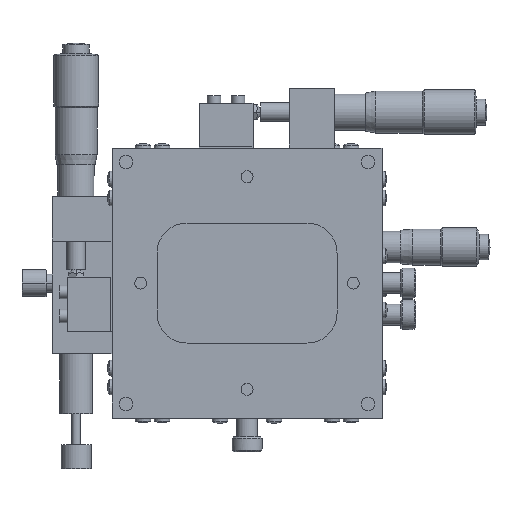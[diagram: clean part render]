
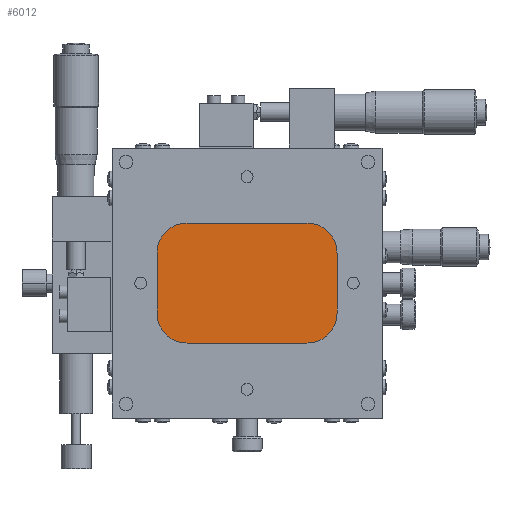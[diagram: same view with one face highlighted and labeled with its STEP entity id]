
A CAD part, front view. The second image highlights one B-rep face of the part: STEP entity #6012.
In plain terms, the highlighted planar face has unit normal (0, -1, 0) as drawn and (0, 0, -1) by its records, which use the part's own axes.
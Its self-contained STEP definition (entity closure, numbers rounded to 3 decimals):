
#878 = VERTEX_POINT ( 'NONE', #10679 ) ;
#884 = VERTEX_POINT ( 'NONE', #10685 ) ;
#887 = VERTEX_POINT ( 'NONE', #10688 ) ;
#888 = VERTEX_POINT ( 'NONE', #10689 ) ;
#889 = VERTEX_POINT ( 'NONE', #10690 ) ;
#890 = VERTEX_POINT ( 'NONE', #10691 ) ;
#891 = VERTEX_POINT ( 'NONE', #10692 ) ;
#892 = VERTEX_POINT ( 'NONE', #10693 ) ;
#4205 = ORIENTED_EDGE ( 'NONE', *, *, #6192, .T. ) ;
#4206 = ORIENTED_EDGE ( 'NONE', *, *, #6193, .T. ) ;
#4207 = ORIENTED_EDGE ( 'NONE', *, *, #6194, .T. ) ;
#4208 = ORIENTED_EDGE ( 'NONE', *, *, #6195, .T. ) ;
#4209 = ORIENTED_EDGE ( 'NONE', *, *, #6196, .T. ) ;
#4210 = ORIENTED_EDGE ( 'NONE', *, *, #6197, .T. ) ;
#4211 = ORIENTED_EDGE ( 'NONE', *, *, #6198, .T. ) ;
#4212 = ORIENTED_EDGE ( 'NONE', *, *, #6199, .T. ) ;
#6012 = ADVANCED_FACE ( 'NONE', ( #24374 ), #24375, .T. ) ;
#6192 = EDGE_CURVE ( 'NONE', #878, #884, #24756, .T. ) ;
#6193 = EDGE_CURVE ( 'NONE', #884, #887, #26494, .T. ) ;
#6194 = EDGE_CURVE ( 'NONE', #887, #888, #24760, .T. ) ;
#6195 = EDGE_CURVE ( 'NONE', #888, #889, #26485, .T. ) ;
#6196 = EDGE_CURVE ( 'NONE', #889, #890, #24763, .T. ) ;
#6197 = EDGE_CURVE ( 'NONE', #890, #891, #26499, .T. ) ;
#6198 = EDGE_CURVE ( 'NONE', #891, #892, #24766, .T. ) ;
#6199 = EDGE_CURVE ( 'NONE', #892, #878, #26505, .T. ) ;
#8022 = EDGE_LOOP ( 'NONE', ( #4205, #4206, #4207, #4208, #4209, #4210, #4211, #4212 ) ) ;
#10679 = CARTESIAN_POINT ( 'NONE',  ( -30., 10., 0.5 ) ) ;
#10685 = CARTESIAN_POINT ( 'NONE',  ( -20., 20., 0.5 ) ) ;
#10688 = CARTESIAN_POINT ( 'NONE',  ( 20., 20., 0.5 ) ) ;
#10689 = CARTESIAN_POINT ( 'NONE',  ( 30., 10., 0.5 ) ) ;
#10690 = CARTESIAN_POINT ( 'NONE',  ( 30., -10., 0.5 ) ) ;
#10691 = CARTESIAN_POINT ( 'NONE',  ( 20., -20., 0.5 ) ) ;
#10692 = CARTESIAN_POINT ( 'NONE',  ( -20., -20., 0.5 ) ) ;
#10693 = CARTESIAN_POINT ( 'NONE',  ( -30., -10., 0.5 ) ) ;
#24372 = CARTESIAN_POINT ( 'NONE',  ( -20., 10., 0.5 ) ) ;
#24374 = FACE_OUTER_BOUND ( 'NONE', #8022, .T. ) ;
#24375 = PLANE ( 'NONE',  #24544 ) ;
#24378 = DIRECTION ( 'NONE',  ( 0., 0., -1. ) ) ;
#24379 = DIRECTION ( 'NONE',  ( 0., -1., 0. ) ) ;
#24544 = AXIS2_PLACEMENT_3D ( 'NONE', #24372, #24378, #24379 ) ;
#24750 = VECTOR ( 'NONE', #26498, 1000. ) ;
#24756 = CIRCLE ( 'NONE', #24759, 10. ) ;
#24759 = AXIS2_PLACEMENT_3D ( 'NONE', #26495, #26496, #26497 ) ;
#24760 = CIRCLE ( 'NONE', #24762, 10. ) ;
#24761 = VECTOR ( 'NONE', #26504, 1000. ) ;
#24762 = AXIS2_PLACEMENT_3D ( 'NONE', #26501, #26502, #26503 ) ;
#24763 = CIRCLE ( 'NONE', #24765, 10. ) ;
#24764 = VECTOR ( 'NONE', #26510, 1000. ) ;
#24765 = AXIS2_PLACEMENT_3D ( 'NONE', #26507, #26508, #26509 ) ;
#24766 = CIRCLE ( 'NONE', #24768, 10. ) ;
#24767 = VECTOR ( 'NONE', #26514, 1000. ) ;
#24768 = AXIS2_PLACEMENT_3D ( 'NONE', #26511, #26512, #26513 ) ;
#26485 = LINE ( 'NONE', #26493, #24761 ) ;
#26489 = CARTESIAN_POINT ( 'NONE',  ( -20., 20., 0.5 ) ) ;
#26493 = CARTESIAN_POINT ( 'NONE',  ( 30., 10., 0.5 ) ) ;
#26494 = LINE ( 'NONE', #26489, #24750 ) ;
#26495 = CARTESIAN_POINT ( 'NONE',  ( -20., 10., 0.5 ) ) ;
#26496 = DIRECTION ( 'NONE',  ( 0., 0., -1. ) ) ;
#26497 = DIRECTION ( 'NONE',  ( 0., -1., 0. ) ) ;
#26498 = DIRECTION ( 'NONE',  ( 1., 0., 0. ) ) ;
#26499 = LINE ( 'NONE', #26500, #24764 ) ;
#26500 = CARTESIAN_POINT ( 'NONE',  ( 20., -20., 0.5 ) ) ;
#26501 = CARTESIAN_POINT ( 'NONE',  ( 20., 10., 0.5 ) ) ;
#26502 = DIRECTION ( 'NONE',  ( 0., 0., -1. ) ) ;
#26503 = DIRECTION ( 'NONE',  ( 0., -1., 0. ) ) ;
#26504 = DIRECTION ( 'NONE',  ( 0., -1., 0. ) ) ;
#26505 = LINE ( 'NONE', #26506, #24767 ) ;
#26506 = CARTESIAN_POINT ( 'NONE',  ( -30., -10., 0.5 ) ) ;
#26507 = CARTESIAN_POINT ( 'NONE',  ( 20., -10., 0.5 ) ) ;
#26508 = DIRECTION ( 'NONE',  ( 0., 0., -1. ) ) ;
#26509 = DIRECTION ( 'NONE',  ( 0., -1., 0. ) ) ;
#26510 = DIRECTION ( 'NONE',  ( -1., 0., 0. ) ) ;
#26511 = CARTESIAN_POINT ( 'NONE',  ( -20., -10., 0.5 ) ) ;
#26512 = DIRECTION ( 'NONE',  ( 0., 0., -1. ) ) ;
#26513 = DIRECTION ( 'NONE',  ( 0., -1., 0. ) ) ;
#26514 = DIRECTION ( 'NONE',  ( 0., 1., 0. ) ) ;
